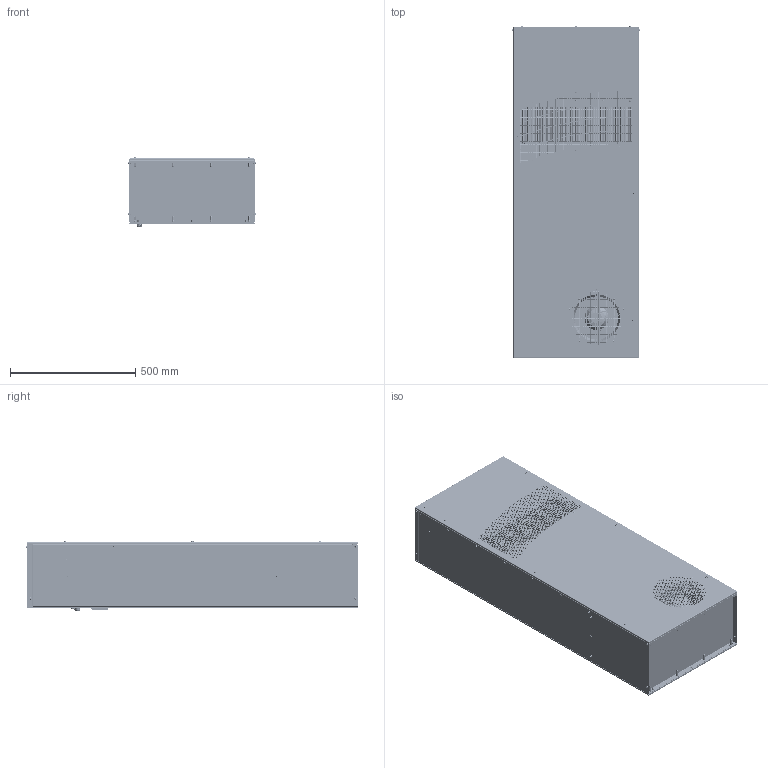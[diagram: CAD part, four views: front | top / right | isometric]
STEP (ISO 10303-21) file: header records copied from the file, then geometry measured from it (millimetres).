
FILE_DESCRIPTION (( 'STEP AP214' ), '1' );
FILE_NAME ('TX52.STEP', '2017-02-23T20:03:48', ( '' ), ( '' ), 'SwSTEP 2.0', 'SolidWorks 2014', '' );
FILE_SCHEMA (( 'AUTOMOTIVE_DESIGN' ));
Length unit declared in the file: inch
Products named in the file (68): 10-1097-23; 38-5131-00; 89087092; 38-5118-01; 52-6048-40; 10-1054-01; 38-5118-00; 10-1015-18; 10-1015-146; 89107047; 10-1014-251; 52-5103-01; 10-1003-06; 52-5110-00; 52-6031-03; 10-1014-200_10-1014-200; 10-1002-310; 52-5111-00_flexible; 10-1091-134; 89095669_89095669; 89129380; 89087118; 10-1091-89; 89100024; 89087119; 52-5106-03; 04-2001-516; 89087120; 89087091; 10-1002-315; 89092464; 38-2023-02; 87558055_87558055; 38-2023-12; 52-6048-38; 89145753; 10-1002-289; 52-5104-00; 10-1015-208_PEM CLSS-024-1 ---N; 99401423_99401423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
Assembly tree (247 placements, depth 3):
  TX52
    52-5103-01
      89084144
      10-1015-208_PEM CLSS-024-1 ---N  x10
      89095669_89095669
      89095669_89095669
      89095669_89095669
      89095669_89095669
      89095669_89095669
      89095669_89095669
      10-1014-200_10-1014-200  x7
    10-1015-146  x16
    10-1054-01  x4
    89087092  x2
    89087093  x2
    10-1052-08  x2
    10-1015-04  x8
    90-2000-66
    52-7005-00_Assembly
    38-5128-00  x2
    10-1014-269_87547883  x50
    10-1061-16
    10-1002-289
    38-2023-12
    89092464  x2
    52-5111-00_flexible
      89087120  x2
      89087119
      89087118  x2
    52-5110-00
    89107047
    38-5118-00
    38-5118-01
    10-1097-23  x13
    03-63590-00  x13
    89087089  x2
    38-5113-02
      89083535
      10-1015-208_PEM CLSS-024-1 ---N  x6
    10-1014-135_CR-PHMS 0.19-24x0.375x0.375-N  x20
    38-5112-02
    52-5104-00
    52-6048-38  x2
    38-2023-02
    89087091
    52-5106-03  x2
    10-1091-134  x2
      10-1091-89
    52-6031-03  x2
    10-1014-251  x8
    10-1015-18  x8
    52-6048-40  x2
    38-5131-00
    89087090  x2
    38-5130-00
    10-1014-10  x5
    52-5114-01
    10-1002-266  x2
    S-1302  x2
    89145753
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Bounding box: 507.39 x 1324.43 x 276.43 mm (x, y, z)
Volume: 13773002.2 mm3; surface area: 37969220.4 mm2
Topology: 444 solids, 448 shells, 31764 faces, 81767 edges, 52190 vertices
Faces by surface type: plane 17804, cylinder 6013, cone 4018, bspline 3300, torus 510, sphere 119
Entity records: 795923 total; most frequent: CARTESIAN_POINT 251320, ORIENTED_EDGE 97050, DIRECTION 80437, EDGE_CURVE 48529, LINE 36535, VECTOR 36535, VERTEX_POINT 31918, AXIS2_PLACEMENT_3D 21951
